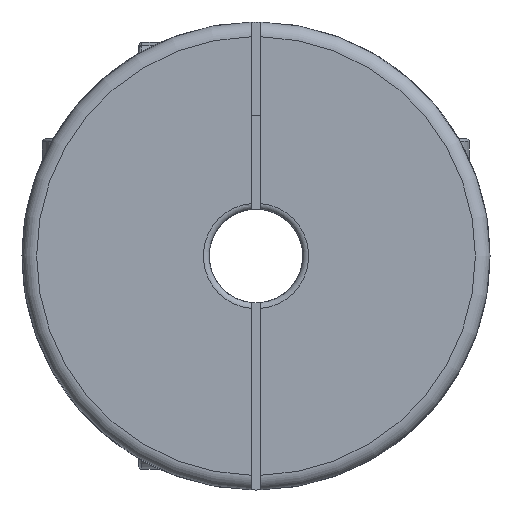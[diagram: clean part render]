
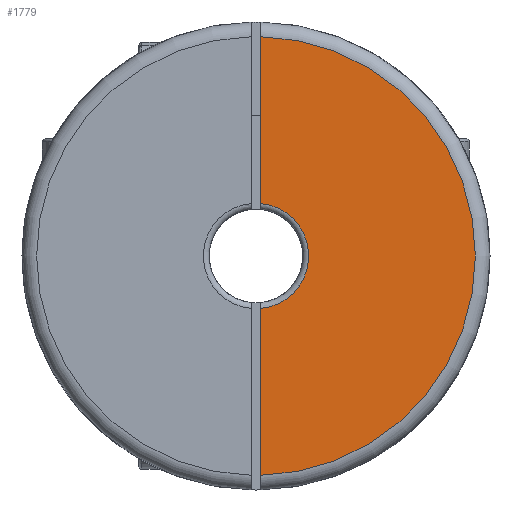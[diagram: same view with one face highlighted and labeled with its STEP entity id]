
A CAD part, left-side view. The second image highlights one B-rep face of the part: STEP entity #1779.
In plain terms, the highlighted planar face has unit normal (-1, 0, 0).
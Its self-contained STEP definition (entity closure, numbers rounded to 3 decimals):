
#224 = VECTOR ( 'NONE', #1004, 1000. ) ;
#292 = PLANE ( 'NONE',  #5104 ) ;
#730 = DIRECTION ( 'NONE',  ( 0., 0., -1. ) ) ;
#818 = VERTEX_POINT ( 'NONE', #5434 ) ;
#1004 = DIRECTION ( 'NONE',  ( 0., 0., -1. ) ) ;
#1164 = CIRCLE ( 'NONE', #2803, 4.5 ) ;
#1213 = EDGE_CURVE ( 'NONE', #3380, #818, #3819, .T. ) ;
#1386 = LINE ( 'NONE', #3633, #224 ) ;
#1557 = DIRECTION ( 'NONE',  ( -1., 0., 0. ) ) ;
#1615 = CARTESIAN_POINT ( 'NONE',  ( -28., -0.4, 4.482 ) ) ;
#1721 = CARTESIAN_POINT ( 'NONE',  ( -28., -0.4, -4.482 ) ) ;
#1754 = AXIS2_PLACEMENT_3D ( 'NONE', #4192, #1557, #4645 ) ;
#1779 = ADVANCED_FACE ( 'NONE', ( #4646 ), #292, .F. ) ;
#1888 = ORIENTED_EDGE ( 'NONE', *, *, #4832, .T. ) ;
#1893 = EDGE_LOOP ( 'NONE', ( #1888, #2693, #3240, #4942 ) ) ;
#2025 = CARTESIAN_POINT ( 'NONE',  ( -28., 0., 0. ) ) ;
#2152 = CARTESIAN_POINT ( 'NONE',  ( -28., 0., 0. ) ) ;
#2280 = CARTESIAN_POINT ( 'NONE',  ( -28., -0.4, 19.996 ) ) ;
#2576 = DIRECTION ( 'NONE',  ( 0., 0., -1. ) ) ;
#2693 = ORIENTED_EDGE ( 'NONE', *, *, #5626, .T. ) ;
#2803 = AXIS2_PLACEMENT_3D ( 'NONE', #2152, #5226, #2576 ) ;
#2810 = VERTEX_POINT ( 'NONE', #1615 ) ;
#3240 = ORIENTED_EDGE ( 'NONE', *, *, #5158, .T. ) ;
#3351 = DIRECTION ( 'NONE',  ( 1., 0., 0. ) ) ;
#3380 = VERTEX_POINT ( 'NONE', #4108 ) ;
#3633 = CARTESIAN_POINT ( 'NONE',  ( -28., -0.4, 19.996 ) ) ;
#3819 = CIRCLE ( 'NONE', #1754, 18.75 ) ;
#3915 = VECTOR ( 'NONE', #4911, 1000. ) ;
#4108 = CARTESIAN_POINT ( 'NONE',  ( -28., -0.4, -18.746 ) ) ;
#4192 = CARTESIAN_POINT ( 'NONE',  ( -28., 0., 0. ) ) ;
#4645 = DIRECTION ( 'NONE',  ( 0., 0., -1. ) ) ;
#4646 = FACE_OUTER_BOUND ( 'NONE', #1893, .T. ) ;
#4832 = EDGE_CURVE ( 'NONE', #818, #2810, #4958, .T. ) ;
#4911 = DIRECTION ( 'NONE',  ( 0., 0., -1. ) ) ;
#4942 = ORIENTED_EDGE ( 'NONE', *, *, #1213, .T. ) ;
#4958 = LINE ( 'NONE', #2280, #3915 ) ;
#5042 = VERTEX_POINT ( 'NONE', #1721 ) ;
#5104 = AXIS2_PLACEMENT_3D ( 'NONE', #2025, #3351, #730 ) ;
#5158 = EDGE_CURVE ( 'NONE', #5042, #3380, #1386, .T. ) ;
#5226 = DIRECTION ( 'NONE',  ( 1., 0., 0. ) ) ;
#5434 = CARTESIAN_POINT ( 'NONE',  ( -28., -0.4, 18.746 ) ) ;
#5626 = EDGE_CURVE ( 'NONE', #2810, #5042, #1164, .T. ) ;
